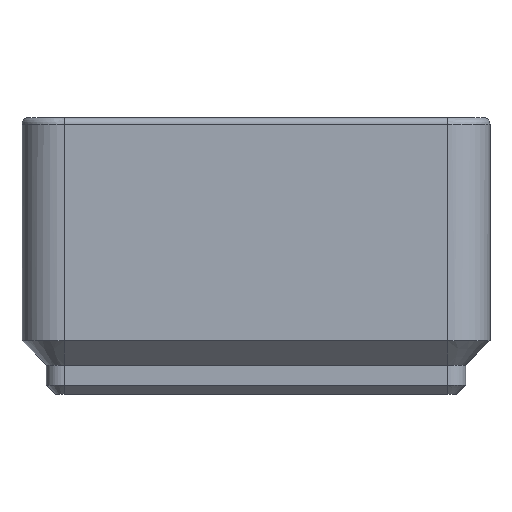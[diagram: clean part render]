
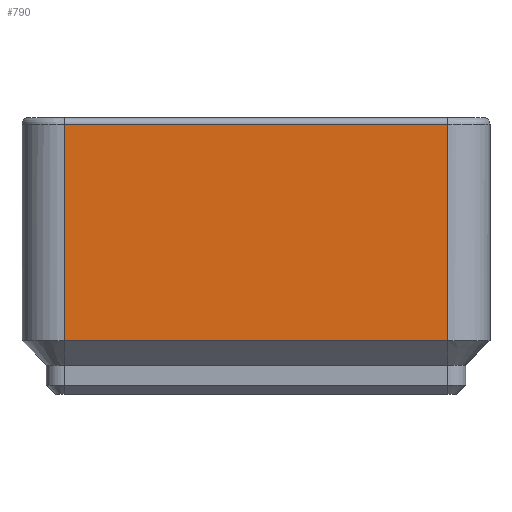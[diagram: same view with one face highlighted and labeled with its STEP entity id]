
A CAD part, left-side view. The second image highlights one B-rep face of the part: STEP entity #790.
In plain terms, the highlighted planar face has unit normal (-1, 0, 0).
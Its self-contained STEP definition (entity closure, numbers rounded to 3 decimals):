
#70 = CYLINDRICAL_SURFACE('',#71,0.6);
#71 = AXIS2_PLACEMENT_3D('',#72,#73,#74);
#72 = CARTESIAN_POINT('',(-20.15,-17.,23.951));
#73 = DIRECTION('',(0.,1.,0.));
#74 = DIRECTION('',(0.707,-0.,0.707));
#279 = VERTEX_POINT('',#280);
#280 = CARTESIAN_POINT('',(-20.75,-17.,23.951));
#308 = EDGE_CURVE('',#279,#309,#311,.T.);
#309 = VERTEX_POINT('',#310);
#310 = CARTESIAN_POINT('',(-20.75,17.,23.951));
#311 = SURFACE_CURVE('',#312,(#316,#323),.PCURVE_S1.);
#312 = LINE('',#313,#314);
#313 = CARTESIAN_POINT('',(-20.75,-17.,23.951));
#314 = VECTOR('',#315,1.);
#315 = DIRECTION('',(0.,1.,0.));
#316 = PCURVE('',#70,#317);
#317 = DEFINITIONAL_REPRESENTATION('',(#318),#322);
#318 = LINE('',#319,#320);
#319 = CARTESIAN_POINT('',(-2.356,0.));
#320 = VECTOR('',#321,1.);
#321 = DIRECTION('',(-0.,1.));
#322 = ( GEOMETRIC_REPRESENTATION_CONTEXT(2) 
PARAMETRIC_REPRESENTATION_CONTEXT() REPRESENTATION_CONTEXT('2D SPACE',''
  ) );
#323 = PCURVE('',#324,#329);
#324 = PLANE('',#325);
#325 = AXIS2_PLACEMENT_3D('',#326,#327,#328);
#326 = CARTESIAN_POINT('',(-20.75,-17.,2.6));
#327 = DIRECTION('',(-1.,0.,0.));
#328 = DIRECTION('',(0.,1.,0.));
#329 = DEFINITIONAL_REPRESENTATION('',(#330),#334);
#330 = LINE('',#331,#332);
#331 = CARTESIAN_POINT('',(0.,-21.351));
#332 = VECTOR('',#333,1.);
#333 = DIRECTION('',(1.,0.));
#334 = ( GEOMETRIC_REPRESENTATION_CONTEXT(2) 
PARAMETRIC_REPRESENTATION_CONTEXT() REPRESENTATION_CONTEXT('2D SPACE',''
  ) );
#717 = CYLINDRICAL_SURFACE('',#718,3.75);
#718 = AXIS2_PLACEMENT_3D('',#719,#720,#721);
#719 = CARTESIAN_POINT('',(-17.,-17.,2.6));
#720 = DIRECTION('',(0.,0.,-1.));
#721 = DIRECTION('',(-1.,0.,0.));
#790 = ADVANCED_FACE('',(#791),#324,.T.);
#791 = FACE_BOUND('',#792,.T.);
#792 = EDGE_LOOP('',(#793,#816,#817,#845));
#793 = ORIENTED_EDGE('',*,*,#794,.T.);
#794 = EDGE_CURVE('',#795,#279,#797,.T.);
#795 = VERTEX_POINT('',#796);
#796 = CARTESIAN_POINT('',(-20.75,-17.,4.75));
#797 = SURFACE_CURVE('',#798,(#802,#809),.PCURVE_S1.);
#798 = LINE('',#799,#800);
#799 = CARTESIAN_POINT('',(-20.75,-17.,4.75));
#800 = VECTOR('',#801,1.);
#801 = DIRECTION('',(0.,0.,1.));
#802 = PCURVE('',#324,#803);
#803 = DEFINITIONAL_REPRESENTATION('',(#804),#808);
#804 = LINE('',#805,#806);
#805 = CARTESIAN_POINT('',(0.,-2.15));
#806 = VECTOR('',#807,1.);
#807 = DIRECTION('',(0.,-1.));
#808 = ( GEOMETRIC_REPRESENTATION_CONTEXT(2) 
PARAMETRIC_REPRESENTATION_CONTEXT() REPRESENTATION_CONTEXT('2D SPACE',''
  ) );
#809 = PCURVE('',#717,#810);
#810 = DEFINITIONAL_REPRESENTATION('',(#811),#815);
#811 = LINE('',#812,#813);
#812 = CARTESIAN_POINT('',(6.283,-2.15));
#813 = VECTOR('',#814,1.);
#814 = DIRECTION('',(0.,-1.));
#815 = ( GEOMETRIC_REPRESENTATION_CONTEXT(2) 
PARAMETRIC_REPRESENTATION_CONTEXT() REPRESENTATION_CONTEXT('2D SPACE',''
  ) );
#816 = ORIENTED_EDGE('',*,*,#308,.T.);
#817 = ORIENTED_EDGE('',*,*,#818,.T.);
#818 = EDGE_CURVE('',#309,#819,#821,.T.);
#819 = VERTEX_POINT('',#820);
#820 = CARTESIAN_POINT('',(-20.75,17.,4.75));
#821 = SURFACE_CURVE('',#822,(#826,#833),.PCURVE_S1.);
#822 = LINE('',#823,#824);
#823 = CARTESIAN_POINT('',(-20.75,17.,25.4));
#824 = VECTOR('',#825,1.);
#825 = DIRECTION('',(0.,0.,-1.));
#826 = PCURVE('',#324,#827);
#827 = DEFINITIONAL_REPRESENTATION('',(#828),#832);
#828 = LINE('',#829,#830);
#829 = CARTESIAN_POINT('',(34.,-22.8));
#830 = VECTOR('',#831,1.);
#831 = DIRECTION('',(0.,1.));
#832 = ( GEOMETRIC_REPRESENTATION_CONTEXT(2) 
PARAMETRIC_REPRESENTATION_CONTEXT() REPRESENTATION_CONTEXT('2D SPACE',''
  ) );
#833 = PCURVE('',#834,#839);
#834 = CYLINDRICAL_SURFACE('',#835,3.75);
#835 = AXIS2_PLACEMENT_3D('',#836,#837,#838);
#836 = CARTESIAN_POINT('',(-17.,17.,2.6));
#837 = DIRECTION('',(0.,0.,-1.));
#838 = DIRECTION('',(-1.,0.,0.));
#839 = DEFINITIONAL_REPRESENTATION('',(#840),#844);
#840 = LINE('',#841,#842);
#841 = CARTESIAN_POINT('',(0.,-22.8));
#842 = VECTOR('',#843,1.);
#843 = DIRECTION('',(-0.,1.));
#844 = ( GEOMETRIC_REPRESENTATION_CONTEXT(2) 
PARAMETRIC_REPRESENTATION_CONTEXT() REPRESENTATION_CONTEXT('2D SPACE',''
  ) );
#845 = ORIENTED_EDGE('',*,*,#846,.F.);
#846 = EDGE_CURVE('',#795,#819,#847,.T.);
#847 = SURFACE_CURVE('',#848,(#852,#859),.PCURVE_S1.);
#848 = LINE('',#849,#850);
#849 = CARTESIAN_POINT('',(-20.75,-17.,4.75));
#850 = VECTOR('',#851,1.);
#851 = DIRECTION('',(0.,1.,0.));
#852 = PCURVE('',#324,#853);
#853 = DEFINITIONAL_REPRESENTATION('',(#854),#858);
#854 = LINE('',#855,#856);
#855 = CARTESIAN_POINT('',(0.,-2.15));
#856 = VECTOR('',#857,1.);
#857 = DIRECTION('',(1.,0.));
#858 = ( GEOMETRIC_REPRESENTATION_CONTEXT(2) 
PARAMETRIC_REPRESENTATION_CONTEXT() REPRESENTATION_CONTEXT('2D SPACE',''
  ) );
#859 = PCURVE('',#860,#865);
#860 = PLANE('',#861);
#861 = AXIS2_PLACEMENT_3D('',#862,#863,#864);
#862 = CARTESIAN_POINT('',(-19.675,-17.,3.675));
#863 = DIRECTION('',(0.707,0.,0.707)
  );
#864 = DIRECTION('',(0.,-1.,0.));
#865 = DEFINITIONAL_REPRESENTATION('',(#866),#870);
#866 = LINE('',#867,#868);
#867 = CARTESIAN_POINT('',(-0.,-1.52));
#868 = VECTOR('',#869,1.);
#869 = DIRECTION('',(-1.,0.));
#870 = ( GEOMETRIC_REPRESENTATION_CONTEXT(2) 
PARAMETRIC_REPRESENTATION_CONTEXT() REPRESENTATION_CONTEXT('2D SPACE',''
  ) );
